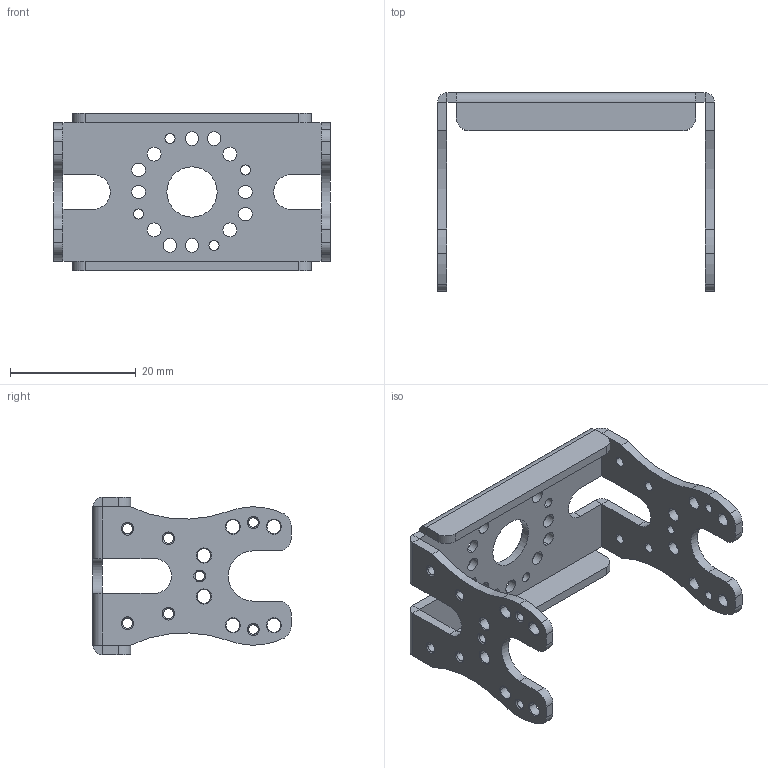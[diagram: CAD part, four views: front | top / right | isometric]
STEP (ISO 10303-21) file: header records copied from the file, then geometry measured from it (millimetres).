
FILE_DESCRIPTION((''),'2;1');
FILE_NAME('DC07_00A_ADAPTOR_HINGE','2006-11-29T',('bono'),(''),'PRO/ENGINEER BY PARAMETRIC TECHNOLOGY CORPORATION, 2006170','PRO/ENGINEER BY PARAMETRIC TECHNOLOGY CORPORATION, 2006170','');
FILE_SCHEMA(('CONFIG_CONTROL_DESIGN'));
Length unit declared in the file: millimetre
Products named in the file (1): DC07_00A_ADAPTOR_HINGE
Bounding box: 44 x 31.5 x 25 mm (x, y, z)
Volume: 3094.6 mm3; surface area: 5107.9 mm2
Topology: 1 solids, 1 shells, 260 faces, 652 edges, 390 vertices
Faces by surface type: cylinder 122, cone 86, plane 52
Entity records: 7972 total; most frequent: DIRECTION 1502, ORIENTED_EDGE 1304, CARTESIAN_POINT 1302, EDGE_CURVE 652, AXIS2_PLACEMENT_3D 590, VERTEX_POINT 390, EDGE_LOOP 346, CIRCLE 330
